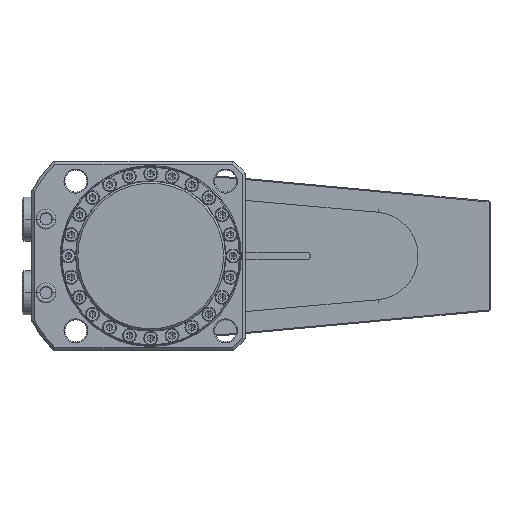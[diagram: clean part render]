
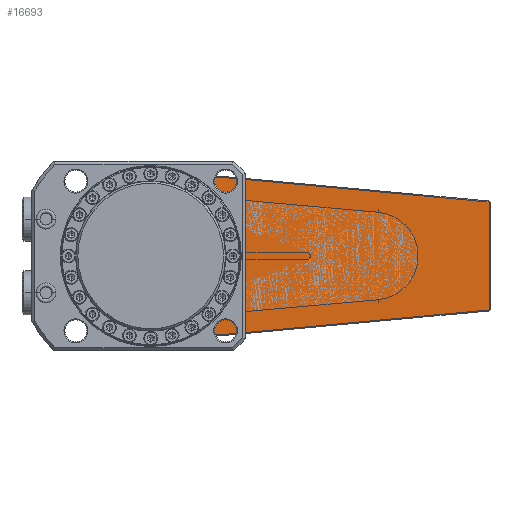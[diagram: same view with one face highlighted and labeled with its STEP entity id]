
A CAD part, front view. The second image highlights one B-rep face of the part: STEP entity #16693.
In plain terms, the highlighted planar face has unit normal (0, -1, 0).
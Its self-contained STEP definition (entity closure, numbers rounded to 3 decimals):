
#13622=DIRECTION('',(1.,0.,0.));
#13623=VECTOR('',#13622,26.358);
#13624=CARTESIAN_POINT('',(-49.5,-21.5,2.));
#13625=LINE('',#13624,#13623);
#13626=DIRECTION('',(0.,0.,-1.));
#13627=VECTOR('',#13626,24.);
#13628=CARTESIAN_POINT('',(-49.5,-21.5,26.));
#13629=LINE('',#13628,#13627);
#13630=DIRECTION('',(-0.707,0.,-0.707));
#13631=VECTOR('',#13630,1.414);
#13632=CARTESIAN_POINT('',(-48.5,-21.5,27.));
#13633=LINE('',#13632,#13631);
#13634=DIRECTION('',(-1.,0.,0.));
#13635=VECTOR('',#13634,44.);
#13636=CARTESIAN_POINT('',(-4.5,-21.5,27.));
#13637=LINE('',#13636,#13635);
#13638=DIRECTION('',(0.,0.,-1.));
#13639=VECTOR('',#13638,12.5);
#13640=CARTESIAN_POINT('',(-4.5,-21.5,39.5));
#13641=LINE('',#13640,#13639);
#13642=DIRECTION('',(-1.,0.,0.));
#13643=VECTOR('',#13642,39.477);
#13644=CARTESIAN_POINT('',(34.977,-21.5,39.5));
#13645=LINE('',#13644,#13643);
#13646=DIRECTION('',(-0.996,0.,0.092));
#13647=VECTOR('',#13646,135.099);
#13648=CARTESIAN_POINT('',(169.5,-21.5,27.044));
#13649=LINE('',#13648,#13647);
#13650=DIRECTION('',(0.,0.,1.));
#13651=VECTOR('',#13650,54.088);
#13652=CARTESIAN_POINT('',(169.5,-21.5,-27.044));
#13653=LINE('',#13652,#13651);
#13654=DIRECTION('',(0.996,0.,0.092));
#13655=VECTOR('',#13654,135.099);
#13656=CARTESIAN_POINT('',(34.977,-21.5,-39.5));
#13657=LINE('',#13656,#13655);
#13658=DIRECTION('',(1.,0.,0.));
#13659=VECTOR('',#13658,39.477);
#13660=CARTESIAN_POINT('',(-4.5,-21.5,-39.5));
#13661=LINE('',#13660,#13659);
#13662=DIRECTION('',(0.,0.,-1.));
#13663=VECTOR('',#13662,12.5);
#13664=CARTESIAN_POINT('',(-4.5,-21.5,-27.));
#13665=LINE('',#13664,#13663);
#13666=DIRECTION('',(1.,0.,0.));
#13667=VECTOR('',#13666,44.);
#13668=CARTESIAN_POINT('',(-48.5,-21.5,-27.));
#13669=LINE('',#13668,#13667);
#13670=DIRECTION('',(0.707,0.,-0.707));
#13671=VECTOR('',#13670,1.414);
#13672=CARTESIAN_POINT('',(-49.5,-21.5,-26.));
#13673=LINE('',#13672,#13671);
#13674=DIRECTION('',(0.,0.,-1.));
#13675=VECTOR('',#13674,24.);
#13676=CARTESIAN_POINT('',(-49.5,-21.5,-2.));
#13677=LINE('',#13676,#13675);
#13678=DIRECTION('',(1.,0.,0.));
#13679=VECTOR('',#13678,26.358);
#13680=CARTESIAN_POINT('',(-49.5,-21.5,-2.));
#13681=LINE('',#13680,#13679);
#13687=CARTESIAN_POINT('',(0.001,-21.5,0.));
#13688=DIRECTION('',(0.,1.,0.));
#13689=DIRECTION('',(-0.996,0.,0.086));
#13690=AXIS2_PLACEMENT_3D('',#13687,#13688,#13689);
#13798=CARTESIAN_POINT('',(-23.142,-21.5,
-2.));
#13978=CARTESIAN_POINT('',(-23.142,-21.5,
2.));
#16370=CARTESIAN_POINT('',(-48.5,-21.5,27.));
#16372=VERTEX_POINT('',#16370);
#16376=CARTESIAN_POINT('',(-4.5,-21.5,27.));
#16377=VERTEX_POINT('',#16376);
#16382=CARTESIAN_POINT('',(169.5,-21.5,-27.044));
#16383=CARTESIAN_POINT('',(169.5,-21.5,27.044));
#16384=VERTEX_POINT('',#16382);
#16385=VERTEX_POINT('',#16383);
#16395=CARTESIAN_POINT('',(-48.5,-21.5,-27.));
#16397=VERTEX_POINT('',#16395);
#16398=CARTESIAN_POINT('',(-4.5,-21.5,-27.));
#16399=VERTEX_POINT('',#16398);
#16418=CARTESIAN_POINT('',(-49.5,-21.5,-26.));
#16420=VERTEX_POINT('',#16418);
#16424=CARTESIAN_POINT('',(-49.5,-21.5,-2.));
#16425=VERTEX_POINT('',#16424);
#16426=CARTESIAN_POINT('',(-49.5,-21.5,2.));
#16428=VERTEX_POINT('',#16426);
#16432=CARTESIAN_POINT('',(-49.5,-21.5,26.));
#16433=VERTEX_POINT('',#16432);
#16435=VERTEX_POINT('',#13978);
#16436=VERTEX_POINT('',#13798);
#16482=CARTESIAN_POINT('',(-4.5,-21.5,-39.5));
#16483=VERTEX_POINT('',#16482);
#16484=CARTESIAN_POINT('',(34.977,-21.5,-39.5));
#16485=VERTEX_POINT('',#16484);
#16510=CARTESIAN_POINT('',(34.977,-21.5,39.5));
#16511=VERTEX_POINT('',#16510);
#16512=CARTESIAN_POINT('',(-4.5,-21.5,39.5));
#16513=VERTEX_POINT('',#16512);
#16654=CARTESIAN_POINT('',(0.,-21.5,0.));
#16655=DIRECTION('',(0.,1.,0.));
#16656=DIRECTION('',(1.,0.,0.));
#16657=AXIS2_PLACEMENT_3D('',#16654,#16655,#16656);
#16658=PLANE('',#16657);
#16660=ORIENTED_EDGE('',*,*,#16659,.F.);
#16662=ORIENTED_EDGE('',*,*,#16661,.F.);
#16664=ORIENTED_EDGE('',*,*,#16663,.F.);
#16666=ORIENTED_EDGE('',*,*,#16665,.F.);
#16668=ORIENTED_EDGE('',*,*,#16667,.F.);
#16670=ORIENTED_EDGE('',*,*,#16669,.F.);
#16672=ORIENTED_EDGE('',*,*,#16671,.F.);
#16674=ORIENTED_EDGE('',*,*,#16673,.F.);
#16676=ORIENTED_EDGE('',*,*,#16675,.F.);
#16678=ORIENTED_EDGE('',*,*,#16677,.F.);
#16680=ORIENTED_EDGE('',*,*,#16679,.F.);
#16682=ORIENTED_EDGE('',*,*,#16681,.F.);
#16684=ORIENTED_EDGE('',*,*,#16683,.F.);
#16686=ORIENTED_EDGE('',*,*,#16685,.F.);
#16688=ORIENTED_EDGE('',*,*,#16687,.F.);
#16690=ORIENTED_EDGE('',*,*,#16689,.T.);
#16691=EDGE_LOOP('',(#16660,#16662,#16664,#16666,#16668,#16670,#16672,#16674,
#16676,#16678,#16680,#16682,#16684,#16686,#16688,#16690));
#16692=FACE_OUTER_BOUND('',#16691,.F.);
#16693=ADVANCED_FACE('',(#16692),#16658,.F.);
#13691=CIRCLE('',#13690,23.229);
#16659=EDGE_CURVE('',#16435,#16436,#13691,.T.);
#16661=EDGE_CURVE('',#16428,#16435,#13625,.T.);
#16663=EDGE_CURVE('',#16433,#16428,#13629,.T.);
#16665=EDGE_CURVE('',#16372,#16433,#13633,.T.);
#16667=EDGE_CURVE('',#16377,#16372,#13637,.T.);
#16669=EDGE_CURVE('',#16513,#16377,#13641,.T.);
#16671=EDGE_CURVE('',#16511,#16513,#13645,.T.);
#16673=EDGE_CURVE('',#16385,#16511,#13649,.T.);
#16675=EDGE_CURVE('',#16384,#16385,#13653,.T.);
#16677=EDGE_CURVE('',#16485,#16384,#13657,.T.);
#16679=EDGE_CURVE('',#16483,#16485,#13661,.T.);
#16681=EDGE_CURVE('',#16399,#16483,#13665,.T.);
#16683=EDGE_CURVE('',#16397,#16399,#13669,.T.);
#16685=EDGE_CURVE('',#16420,#16397,#13673,.T.);
#16687=EDGE_CURVE('',#16425,#16420,#13677,.T.);
#16689=EDGE_CURVE('',#16425,#16436,#13681,.T.);
